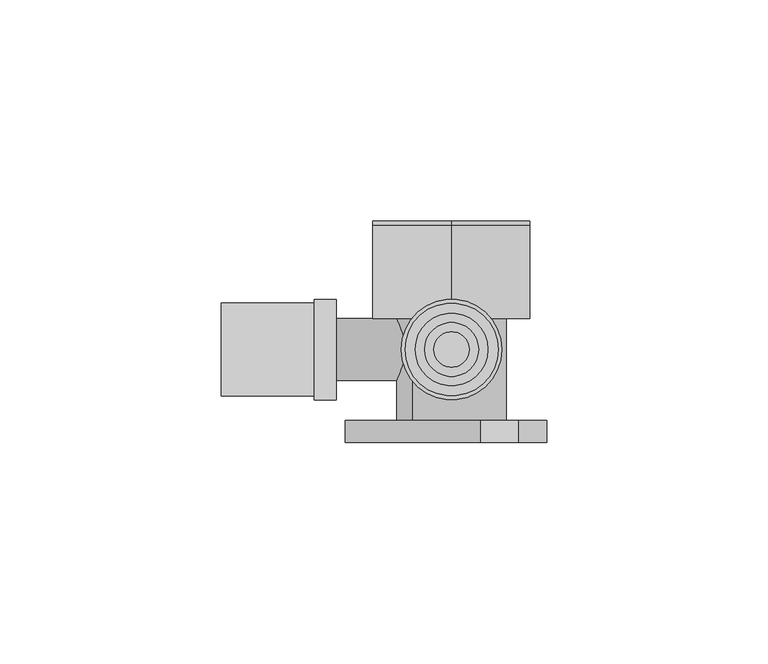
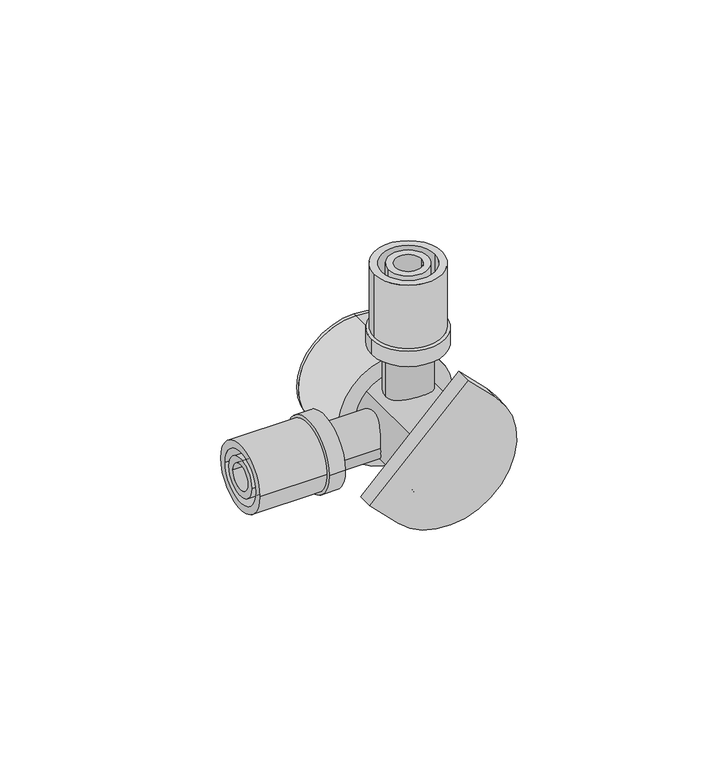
"""IFC4 building model written with IfcOpenShell, lengths in millimetres: pipe fitting geometry, PIF_Tigris_Double_Wall_Flange_M-K_FMT_Wavin : Diameters 16-15/20-15."""

from ifc_helpers import new_model, si_unit, point, frame, origin, origin_with_axes, origin_2d, place, context, project, spatial, polyline, circle_curve, trimmed, segment, composite_curve, outline, extrude, source, transform, mapped, element, save


def pipe_fitting_79e893a4(model_context):
    return source(origin(), model_context, "Body", "SweptSolid", [
        extrude(outline(composite_curve([segment(trimmed(circle_curve(origin_2d(), 11.35), [point((11.35, 0.0))], [point((-11.35, 0.0))], False, "CARTESIAN"), True, "CONTINUOUS"), segment(trimmed(circle_curve(origin_2d(), 11.35), [point((-11.35, 0.0))], [point((11.35, 0.0))], False, "CARTESIAN"), True, "CONTINUOUS")], self_intersect=False)), frame((0.0, 0.0, 26.0), z_axis=(0.0, 0.0, 1.0), x_axis=(1.0, 0.0, 0.0)), (0.0, 0.0, 1.0), 5.0),
        extrude(outline(composite_curve([segment(trimmed(circle_curve(origin_2d(), 10.5), [point((10.5, 0.0))], [point((-10.5, 0.0))], False, "CARTESIAN"), True, "CONTINUOUS"), segment(trimmed(circle_curve(origin_2d(), 10.5), [point((-10.5, 0.0))], [point((10.5, 0.0))], False, "CARTESIAN"), True, "CONTINUOUS")], self_intersect=False), holes=[composite_curve([segment(trimmed(circle_curve(origin_2d(), 8.2), [point((8.2, 0.0))], [point((-8.2, 0.0))], True, "CARTESIAN"), True, "CONTINUOUS"), segment(trimmed(circle_curve(origin_2d(), 8.2), [point((-8.2, 0.0))], [point((8.2, 0.0))], True, "CARTESIAN"), True, "CONTINUOUS")], self_intersect=False)]), frame((0.0, 0.0, 31.0), z_axis=(0.0, 0.0, 1.0), x_axis=(1.0, 0.0, 0.0)), (0.0, 0.0, 1.0), 21.0),
        extrude(outline(composite_curve([segment(trimmed(circle_curve(origin_2d(), 6.1), [point((6.1, 0.0))], [point((-6.1, 0.0))], False, "CARTESIAN"), True, "CONTINUOUS"), segment(trimmed(circle_curve(origin_2d(), 6.1), [point((-6.1, 0.0))], [point((6.1, 0.0))], False, "CARTESIAN"), True, "CONTINUOUS")], self_intersect=False), holes=[composite_curve([segment(trimmed(circle_curve(origin_2d(), 4.0), [point((4.0, 0.0))], [point((-4.0, 0.0))], True, "CARTESIAN"), True, "CONTINUOUS"), segment(trimmed(circle_curve(origin_2d(), 4.0), [point((-4.0, 0.0))], [point((4.0, 0.0))], True, "CARTESIAN"), True, "CONTINUOUS")], self_intersect=False)]), frame((0.0, 0.0, 27.0), z_axis=(0.0, 0.0, 1.0), x_axis=(1.0, 0.0, 0.0)), (0.0, 0.0, 1.0), 25.0),
        extrude(outline(composite_curve([segment(trimmed(circle_curve(origin_2d(), 21.5), [point((-15.2027958, -15.2027958))], [point((15.2027958, 15.2027958))], False, "CARTESIAN"), True, "CONTINUOUS"), segment(polyline([(15.2027958, 15.2027958), (23.9709199, 6.4346717), (-6.4346717, -23.9709199), (-15.2027958, -15.2027958)]), True, "CONTINUOUS")], self_intersect=False)), frame((0.0, -21.0, 0.0), z_axis=(0.0, 1.0, 0.0), x_axis=(0.0, 0.0, 1.0)), (0.0, 0.0, 1.0), 5.0),
        extrude(outline(composite_curve([segment(trimmed(circle_curve(origin_2d(), 12.4), [point((-8.7681241, 8.7681241))], [point((8.7681241, -8.7681241))], False, "CARTESIAN"), True, "CONTINUOUS"), segment(trimmed(circle_curve(origin_2d(), 12.4), [point((8.7681241, -8.7681241))], [point((-8.7681241, 8.7681241))], False, "CARTESIAN"), True, "CONTINUOUS")], self_intersect=False)), frame((0.0, -21.0, 0.0), z_axis=(0.0, 1.0, 0.0), x_axis=(0.0, 0.0, 1.0)), (0.0, 0.0, 1.0), 28.0),
        extrude(outline(composite_curve([segment(trimmed(circle_curve(origin_2d(), 17.8), [point((-17.8, 0.0))], [point((17.8, 0.0))], False, "CARTESIAN"), True, "CONTINUOUS"), segment(trimmed(circle_curve(origin_2d(), 17.8), [point((17.8, 0.0))], [point((-17.8, 0.0))], False, "CARTESIAN"), True, "CONTINUOUS")], self_intersect=False)), frame((0.0, 7.0, 0.0), z_axis=(0.0, 1.0, 0.0), x_axis=(0.0, 0.0, 1.0)), (0.0, 0.0, 1.0), 21.0),
        extrude(outline(composite_curve([segment(trimmed(circle_curve(origin_2d(), 17.8), [point((-17.8, 0.0))], [point((17.8, 0.0))], False, "CARTESIAN"), True, "CONTINUOUS"), segment(trimmed(circle_curve(origin_2d(), 17.8), [point((17.8, 0.0))], [point((-17.8, 0.0))], False, "CARTESIAN"), True, "CONTINUOUS")], self_intersect=False)), frame((0.0, 28.0, 0.0), z_axis=(0.0, 1.0, 0.0), x_axis=(0.0, 0.0, 1.0)), (0.0, 0.0, 1.0), 1.0),
        extrude(outline(composite_curve([segment(trimmed(circle_curve(origin_2d(), 11.35), [point((-11.35, 0.0))], [point((11.35, 0.0))], False, "CARTESIAN"), True, "CONTINUOUS"), segment(trimmed(circle_curve(origin_2d(), 11.35), [point((11.35, 0.0))], [point((-11.35, 0.0))], False, "CARTESIAN"), True, "CONTINUOUS")], self_intersect=False)), frame((-31.0, 0.0, 0.0), z_axis=(1.0, 0.0, 0.0), x_axis=(0.0, 1.0, 0.0)), (0.0, 0.0, 1.0), 5.0),
        extrude(outline(composite_curve([segment(trimmed(circle_curve(origin_2d(), 10.5), [point((-10.5, 0.0))], [point((10.5, 0.0))], False, "CARTESIAN"), True, "CONTINUOUS"), segment(trimmed(circle_curve(origin_2d(), 10.5), [point((10.5, 0.0))], [point((-10.5, 0.0))], False, "CARTESIAN"), True, "CONTINUOUS")], self_intersect=False), holes=[composite_curve([segment(trimmed(circle_curve(origin_2d(), 8.2), [point((-8.2, 0.0))], [point((8.2, 0.0))], True, "CARTESIAN"), True, "CONTINUOUS"), segment(trimmed(circle_curve(origin_2d(), 8.2), [point((8.2, 0.0))], [point((-8.2, 0.0))], True, "CARTESIAN"), True, "CONTINUOUS")], self_intersect=False)]), frame((-52.0, 0.0, 0.0), z_axis=(1.0, 0.0, 0.0), x_axis=(0.0, 1.0, 0.0)), (0.0, 0.0, 1.0), 21.0),
        extrude(outline(composite_curve([segment(trimmed(circle_curve(origin_2d(), 6.1), [point((-6.1, 0.0))], [point((6.1, 0.0))], False, "CARTESIAN"), True, "CONTINUOUS"), segment(trimmed(circle_curve(origin_2d(), 6.1), [point((6.1, 0.0))], [point((-6.1, 0.0))], False, "CARTESIAN"), True, "CONTINUOUS")], self_intersect=False), holes=[composite_curve([segment(trimmed(circle_curve(origin_2d(), 4.0), [point((-4.0, 0.0))], [point((4.0, 0.0))], True, "CARTESIAN"), True, "CONTINUOUS"), segment(trimmed(circle_curve(origin_2d(), 4.0), [point((4.0, 0.0))], [point((-4.0, 0.0))], True, "CARTESIAN"), True, "CONTINUOUS")], self_intersect=False)]), frame((-52.0, 0.0, 0.0), z_axis=(1.0, 0.0, 0.0), x_axis=(0.0, 1.0, 0.0)), (0.0, 0.0, 1.0), 25.0),
        extrude(outline(composite_curve([segment(trimmed(circle_curve(origin_2d(), 7.0), [point((-7.0, 0.0))], [point((7.0, 0.0))], False, "CARTESIAN"), True, "CONTINUOUS"), segment(trimmed(circle_curve(origin_2d(), 7.0), [point((7.0, 0.0))], [point((-7.0, 0.0))], False, "CARTESIAN"), True, "CONTINUOUS")], self_intersect=False)), origin_with_axes(), (0.0, 0.0, 1.0), 27.0),
        extrude(outline(composite_curve([segment(trimmed(circle_curve(origin_2d(), 7.0), [point((0.0, 7.0))], [point((0.0, -7.0))], False, "CARTESIAN"), True, "CONTINUOUS"), segment(trimmed(circle_curve(origin_2d(), 7.0), [point((0.0, -7.0))], [point((0.0, 7.0))], False, "CARTESIAN"), True, "CONTINUOUS")], self_intersect=False)), frame((0.0, 0.0, 0.0), z_axis=(0.0, 1.0, 0.0), x_axis=(0.0, 0.0, 1.0)), (0.0, 0.0, 1.0), 12.0),
        extrude(outline(composite_curve([segment(trimmed(circle_curve(origin_2d(), 7.0), [point((-7.0, 0.0))], [point((7.0, 0.0))], False, "CARTESIAN"), True, "CONTINUOUS"), segment(trimmed(circle_curve(origin_2d(), 7.0), [point((7.0, 0.0))], [point((-7.0, 0.0))], False, "CARTESIAN"), True, "CONTINUOUS")], self_intersect=False)), frame((-27.0, 0.0, 0.0), z_axis=(1.0, 0.0, 0.0), x_axis=(0.0, 1.0, 0.0)), (0.0, 0.0, 1.0), 27.0),
    ])


if __name__ == "__main__":
    model = new_model("IFC4")
    model_context = context("Model", 3, world=origin())
    ifc_project = project(units=[si_unit("LENGTHUNIT", "METRE", prefix="MILLI")], contexts=[model_context])
    site = spatial("IfcSite", under=ifc_project)
    building = spatial("IfcBuilding", under=site)
    placement = place(None, origin())
    pipe_fitting_shape = pipe_fitting_79e893a4(model_context)
    element("IfcPipeFitting", 1, ObjectType="PIF_Tigris_Double_Wall_Flange_M-K_FMT_Wavin : Diameters 16-15/20-15", at=placement, inside=building, context=model_context, shape_type="MappedRepresentation", body=[
        mapped(pipe_fitting_shape, transform((0.0, 0.0, 0.0), x_axis=(1.0, 0.0, 0.0), y_axis=(0.0, 1.0, 0.0), z_axis=(0.0, 0.0, 1.0))),
    ])
    save(model, "model.ifc")
